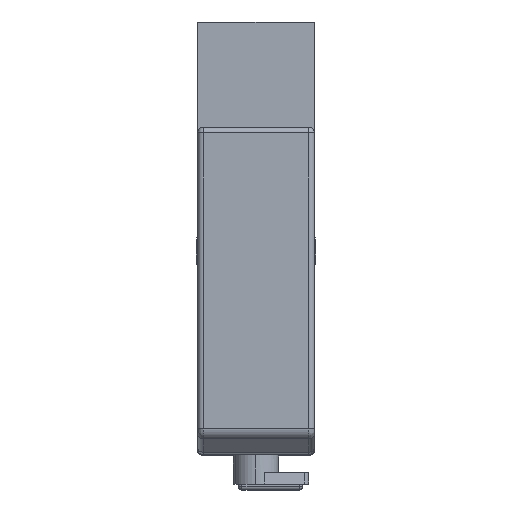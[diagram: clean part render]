
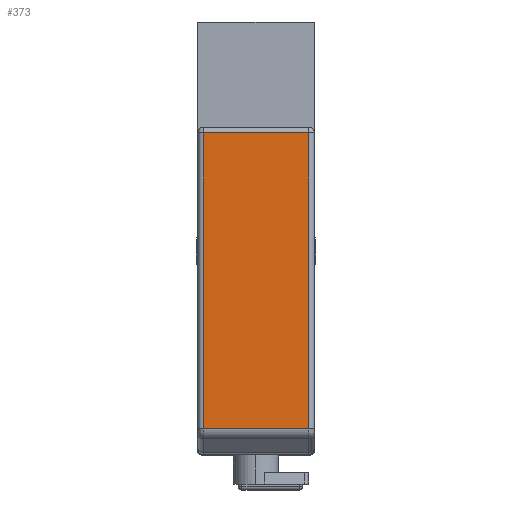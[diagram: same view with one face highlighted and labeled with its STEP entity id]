
A CAD part, top view. The second image highlights one B-rep face of the part: STEP entity #373.
In plain terms, the highlighted planar face has unit normal (0, 0, 1).
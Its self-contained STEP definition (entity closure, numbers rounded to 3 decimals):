
#373=ADVANCED_FACE('',(#1592),#1591,.F.);
#1591=PLANE('',#3173);
#1592=FACE_OUTER_BOUND('',#3174,.T.);
#3170=CARTESIAN_POINT('',(5.4,-27.283,27.4));
#3171=DIRECTION('',(0.,0.,-1.));
#3172=DIRECTION('',(-1.,0.,0.));
#3173=AXIS2_PLACEMENT_3D('',#3170,#3171,#3172);
#3174=EDGE_LOOP('',(#4193,#4194,#4195,#4196));
#4193=ORIENTED_EDGE('',*,*,#4854,.T.);
#4194=ORIENTED_EDGE('',*,*,#4818,.T.);
#4195=ORIENTED_EDGE('',*,*,#4855,.F.);
#4196=ORIENTED_EDGE('',*,*,#4839,.T.);
#4818=EDGE_CURVE('',#6701,#6714,#6721,.T.);
#4839=EDGE_CURVE('',#6832,#6852,#6859,.T.);
#4854=EDGE_CURVE('',#6852,#6701,#6954,.T.);
#4855=EDGE_CURVE('',#6832,#6714,#6960,.T.);
#6701=VERTEX_POINT('',#9074);
#6714=VERTEX_POINT('',#9083);
#6721=LINE('',#9088,#9089);
#6832=VERTEX_POINT('',#9160);
#6852=VERTEX_POINT('',#9174);
#6859=LINE('',#9179,#9180);
#6954=LINE('',#9232,#9233);
#6960=LINE('',#9235,#9236);
#9074=CARTESIAN_POINT('',(-4.5,0.5,27.4));
#9083=CARTESIAN_POINT('',(-4.5,-24.758,27.4));
#9088=CARTESIAN_POINT('',(-4.5,0.5,27.4));
#9089=VECTOR('',#9090,25.258);
#9090=DIRECTION('',(0.,-1.,0.));
#9160=CARTESIAN_POINT('',(4.5,-24.758,27.4));
#9174=CARTESIAN_POINT('',(4.5,0.5,27.4));
#9179=CARTESIAN_POINT('',(4.5,-24.758,27.4));
#9180=VECTOR('',#9181,25.258);
#9181=DIRECTION('',(0.,1.,0.));
#9232=CARTESIAN_POINT('',(4.5,0.5,27.4));
#9233=VECTOR('',#9234,9.);
#9234=DIRECTION('',(-1.,0.,0.));
#9235=CARTESIAN_POINT('',(4.5,-24.758,27.4));
#9236=VECTOR('',#9237,9.);
#9237=DIRECTION('',(-1.,0.,0.));
